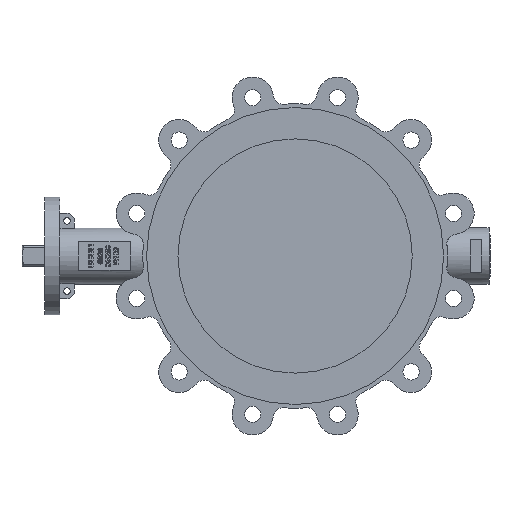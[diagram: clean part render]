
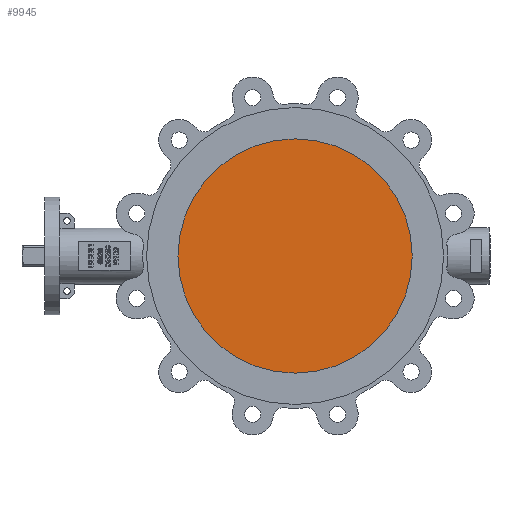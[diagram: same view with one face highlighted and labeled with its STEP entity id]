
A CAD part, left-side view. The second image highlights one B-rep face of the part: STEP entity #9945.
In plain terms, the highlighted planar face has unit normal (-1, 0, 0).
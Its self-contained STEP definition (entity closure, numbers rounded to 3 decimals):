
#460=PLANE('',#10566);
#1231=FACE_OUTER_BOUND('',#1809,.T.);
#1809=EDGE_LOOP('',(#8565));
#3771=CIRCLE('',#10565,125.);
#4662=VERTEX_POINT('',#17689);
#5993=EDGE_CURVE('',#4662,#4662,#3771,.T.);
#8565=ORIENTED_EDGE('',*,*,#5993,.F.);
#9945=ADVANCED_FACE('',(#1231),#460,.F.);
#10565=AXIS2_PLACEMENT_3D('',#17691,#12516,#12517);
#10566=AXIS2_PLACEMENT_3D('',#17692,#12518,#12519);
#12516=DIRECTION('center_axis',(1.,0.,0.));
#12517=DIRECTION('ref_axis',(0.,0.,-1.));
#12518=DIRECTION('center_axis',(1.,0.,0.));
#12519=DIRECTION('ref_axis',(0.,0.,-1.));
#17689=CARTESIAN_POINT('',(-21.844,-46.703,125.));
#17691=CARTESIAN_POINT('Origin',(-21.844,-46.703,0.));
#17692=CARTESIAN_POINT('Origin',(-21.844,-46.703,0.));
